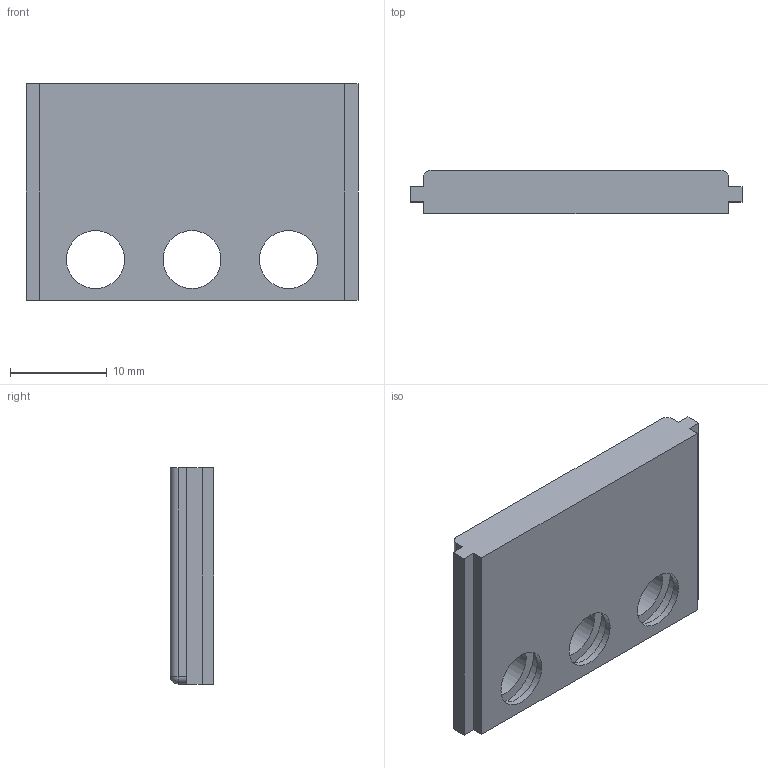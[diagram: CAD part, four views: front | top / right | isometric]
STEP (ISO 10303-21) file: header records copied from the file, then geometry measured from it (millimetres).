
FILE_DESCRIPTION(('Open CASCADE Model'),'2;1');
FILE_NAME('Open CASCADE Shape Model','2026-09-20T13:50:15',('Author'),( 'Open CASCADE'),'Open CASCADE STEP processor 7.7','Open CASCADE 7.7' ,'Unknown');
FILE_SCHEMA(('AUTOMOTIVE_DESIGN { 1 0 10303 214 1 1 1 1 }'));
Length unit declared in the file: millimetre
Products named in the file (1): Open CASCADE STEP translator 7.7 4
Bounding box: 34.4 x 4.5 x 22.4 mm (x, y, z)
Volume: 2775.4 mm3; surface area: 2273.7 mm2
Topology: 1 solids, 1 shells, 36 faces, 80 edges, 50 vertices
Faces by surface type: plane 20, cylinder 14, sphere 2
Full cylindrical faces by diameter (mm): 6 x6, 8.2 x3
Entity records: 2023 total; most frequent: CARTESIAN_POINT 379, DIRECTION 313, LINE 168, VECTOR 168, ORIENTED_EDGE 156, PCURVE 156, DEFINITIONAL_REPRESENTATION 156, EDGE_CURVE 78
